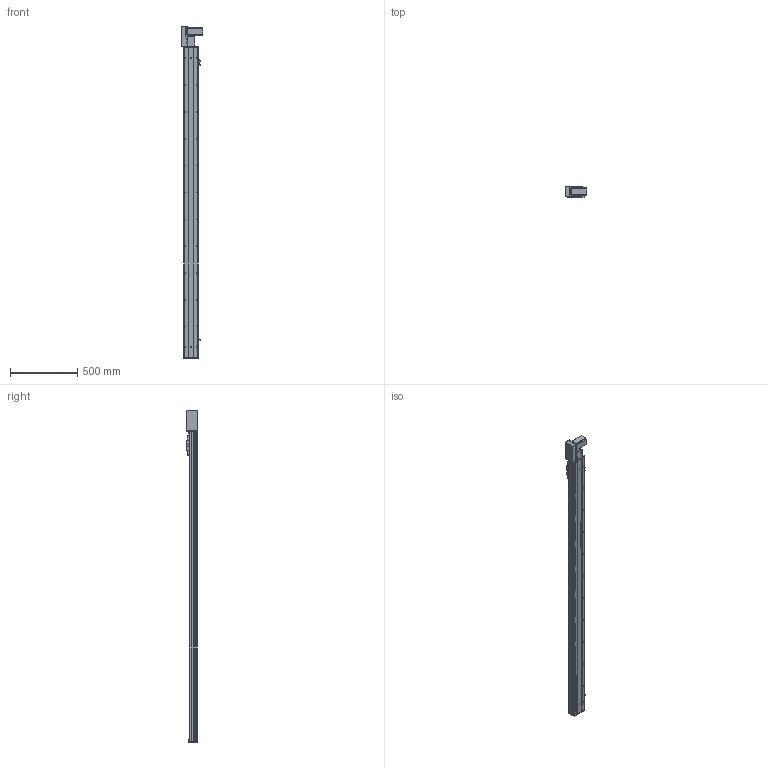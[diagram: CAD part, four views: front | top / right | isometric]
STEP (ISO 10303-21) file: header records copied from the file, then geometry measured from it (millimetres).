
FILE_DESCRIPTION (( 'STEP AP203' ), '1' );
FILE_NAME ('Y10CB-D90-S2050-BL-P400W.STEP', '2020-02-15T08:22:03', ( '微软用户' ), ( '微软中国' ), 'SwSTEP 2.0', 'SolidWorks 2017', '' );
FILE_SCHEMA (( 'CONFIG_CONTROL_DESIGN' ));
Length unit declared in the file: millimetre
Products named in the file (18): Y100-135俋离換覜ん--; 0B-埴倛裔啣; 0CB-雄赽釱---; Y10CB-D90-S2050-BL-P400W; Y俋欶BR----; 0Cb-俋欶---; 10CB-詩湍-; Y10B-々湍喘謫眊楊擘啣--; Y10CB- 掛极耜裔啣-毀---; Y10B--々湍喘謫眊--666; Y10C---詩湍揤啣; Y10B-耜蚾蟀諉啣----; 10CB9-掛极; 0B-萇儂楊擘啣; 10CB-耜裔; san松下电机400不带刹车----; Y135C-陔俋离換覜結え-; 0B-源倛裔啣
Assembly tree (21 placements, depth 2):
  Y10CB-D90-S2050-BL-P400W
    0CB-雄赽釱---
    0Cb-俋欶---
    Y10B-々湍喘謫眊楊擘啣--
    Y10B--々湍喘謫眊--666
    Y10B-耜蚾蟀諉啣----
    0B-萇儂楊擘啣
    san松下电机400不带刹车----
    0B-源倛裔啣
    0B-埴倛裔啣
    Y俋欶BR----
    10CB-詩湍-
    Y10CB- 掛极耜裔啣-毀---  x2
    Y10C---詩湍揤啣  x2
    10CB9-掛极
    10CB-耜裔
    Y135C-陔俋离換覜結え-
    Y100-135俋离換覜ん--  x3
Bounding box: 157.5 x 80.5 x 2472.5 mm (x, y, z)
Volume: 4969043.8 mm3; surface area: 2337008.8 mm2
Topology: 21 solids, 21 shells, 1050 faces, 2843 edges, 1850 vertices
Faces by surface type: cylinder 537, plane 489, cone 24
Entity records: 33404 total; most frequent: CARTESIAN_POINT 6209, DIRECTION 5334, ORIENTED_EDGE 5156, EDGE_CURVE 2578, AXIS2_PLACEMENT_3D 1905, VERTEX_POINT 1676, LINE 1524, VECTOR 1524
